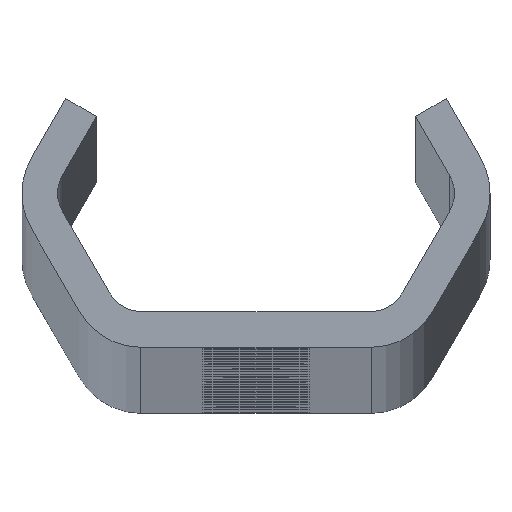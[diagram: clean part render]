
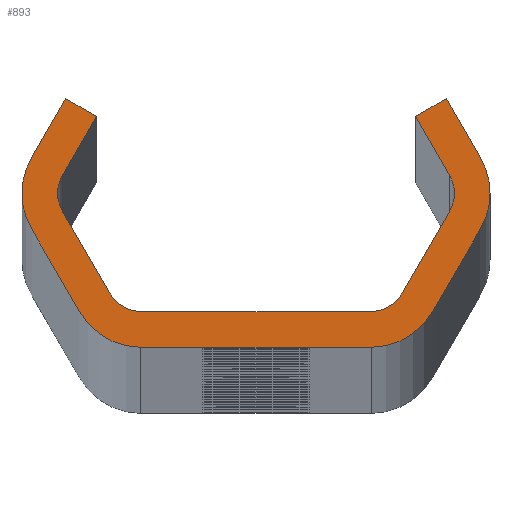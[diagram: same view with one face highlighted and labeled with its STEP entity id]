
A CAD part, top view. The second image highlights one B-rep face of the part: STEP entity #893.
In plain terms, the highlighted planar face has unit normal (0, 0, 1).
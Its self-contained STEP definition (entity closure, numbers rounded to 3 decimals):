
#893=ADVANCED_FACE('NONE',(#2499),#2500,.F.);
#2499=FACE_OUTER_BOUND('',#8165,.T.);
#2500=PLANE('',#8166);
#8165=EDGE_LOOP('',(#16565,#16566,#16567,#16568,#16569,#16570,#16571,#16572,#16573,#16574,#16575,#16576,#16577,#16578,#16579,#16580,#16581,#16582,#16583,#16584,#16585,#16586,#16587,#16588));
#8166=AXIS2_PLACEMENT_3D('',#16589,#16590,#16591);
#16565=ORIENTED_EDGE('',*,*,#22117,.T.);
#16566=ORIENTED_EDGE('',*,*,#22168,.T.);
#16567=ORIENTED_EDGE('',*,*,#21661,.T.);
#16568=ORIENTED_EDGE('',*,*,#22119,.T.);
#16569=ORIENTED_EDGE('',*,*,#22169,.T.);
#16570=ORIENTED_EDGE('',*,*,#22123,.T.);
#16571=ORIENTED_EDGE('',*,*,#22170,.T.);
#16572=ORIENTED_EDGE('',*,*,#21668,.T.);
#16573=ORIENTED_EDGE('',*,*,#22171,.T.);
#16574=ORIENTED_EDGE('',*,*,#21254,.T.);
#16575=ORIENTED_EDGE('',*,*,#21671,.T.);
#16576=ORIENTED_EDGE('',*,*,#21677,.T.);
#16577=ORIENTED_EDGE('',*,*,#21680,.T.);
#16578=ORIENTED_EDGE('',*,*,#21658,.T.);
#16579=ORIENTED_EDGE('',*,*,#22172,.T.);
#16580=ORIENTED_EDGE('',*,*,#21682,.T.);
#16581=ORIENTED_EDGE('',*,*,#22173,.T.);
#16582=ORIENTED_EDGE('',*,*,#21689,.T.);
#16583=ORIENTED_EDGE('',*,*,#22174,.T.);
#16584=ORIENTED_EDGE('',*,*,#22104,.T.);
#16585=ORIENTED_EDGE('',*,*,#22175,.T.);
#16586=ORIENTED_EDGE('',*,*,#21249,.T.);
#16587=ORIENTED_EDGE('',*,*,#22107,.T.);
#16588=ORIENTED_EDGE('',*,*,#22113,.T.);
#16589=CARTESIAN_POINT('',(0.0,0.0,3200.0));
#16590=DIRECTION('',(0.0,0.0,-1.0));
#16591=DIRECTION('',(0.0,-1.0,0.0));
#21249=EDGE_CURVE('NONE',#23676,#23680,#23682,.T.);
#21254=EDGE_CURVE('NONE',#23685,#23689,#23691,.T.);
#21658=EDGE_CURVE('NONE',#24418,#24416,#24419,.T.);
#21661=EDGE_CURVE('NONE',#24422,#24423,#24424,.T.);
#21668=EDGE_CURVE('NONE',#24436,#24434,#24437,.T.);
#21671=EDGE_CURVE('NONE',#23689,#24440,#24441,.T.);
#21677=EDGE_CURVE('NONE',#24440,#24448,#24450,.T.);
#21680=EDGE_CURVE('NONE',#24448,#24418,#24453,.T.);
#21682=EDGE_CURVE('NONE',#24455,#24456,#24457,.T.);
#21689=EDGE_CURVE('NONE',#24469,#24467,#24470,.T.);
#22104=EDGE_CURVE('NONE',#25238,#25236,#25239,.T.);
#22107=EDGE_CURVE('NONE',#23680,#25242,#25243,.T.);
#22113=EDGE_CURVE('NONE',#25242,#25250,#25252,.T.);
#22117=EDGE_CURVE('NONE',#25250,#25256,#25258,.T.);
#22119=EDGE_CURVE('NONE',#24423,#25260,#25261,.T.);
#22123=EDGE_CURVE('NONE',#25266,#25267,#25268,.T.);
#22168=EDGE_CURVE('NONE',#25256,#24422,#25315,.T.);
#22169=EDGE_CURVE('NONE',#25260,#25266,#25316,.T.);
#22170=EDGE_CURVE('NONE',#25267,#24436,#25317,.T.);
#22171=EDGE_CURVE('NONE',#24434,#23685,#25318,.T.);
#22172=EDGE_CURVE('NONE',#24416,#24455,#25319,.T.);
#22173=EDGE_CURVE('NONE',#24456,#24469,#25320,.T.);
#22174=EDGE_CURVE('NONE',#24467,#25238,#25321,.T.);
#22175=EDGE_CURVE('NONE',#25236,#23676,#25322,.T.);
#23676=VERTEX_POINT('',#27273);
#23680=VERTEX_POINT('NONE',#27278);
#23682=CIRCLE('',#27281,3.0);
#23685=VERTEX_POINT('',#27284);
#23689=VERTEX_POINT('NONE',#27289);
#23691=CIRCLE('',#27292,6.0);
#24416=VERTEX_POINT('NONE',#31597);
#24418=VERTEX_POINT('NONE',#31600);
#24419=CIRCLE('',#31601,3.0);
#24422=VERTEX_POINT('NONE',#31605);
#24423=VERTEX_POINT('NONE',#31606);
#24424=CIRCLE('',#31607,6.0);
#24434=VERTEX_POINT('NONE',#31620);
#24436=VERTEX_POINT('NONE',#31623);
#24437=LINE('',#31624,#31625);
#24440=VERTEX_POINT('NONE',#31629);
#24441=LINE('',#31630,#31631);
#24448=VERTEX_POINT('NONE',#31641);
#24450=LINE('',#31644,#31645);
#24453=LINE('',#31649,#31650);
#24455=VERTEX_POINT('NONE',#31652);
#24456=VERTEX_POINT('NONE',#31653);
#24457=LINE('',#31654,#31655);
#24467=VERTEX_POINT('NONE',#31669);
#24469=VERTEX_POINT('NONE',#31672);
#24470=LINE('',#31673,#31674);
#25236=VERTEX_POINT('NONE',#34442);
#25238=VERTEX_POINT('NONE',#34445);
#25239=LINE('',#34446,#34447);
#25242=VERTEX_POINT('NONE',#34451);
#25243=LINE('',#34452,#34453);
#25250=VERTEX_POINT('NONE',#34463);
#25252=LINE('',#34466,#34467);
#25256=VERTEX_POINT('NONE',#34472);
#25258=LINE('',#34475,#34476);
#25260=VERTEX_POINT('NONE',#34478);
#25261=LINE('',#34479,#34480);
#25266=VERTEX_POINT('NONE',#34487);
#25267=VERTEX_POINT('NONE',#34488);
#25268=LINE('',#34489,#34490);
#25315=CIRCLE('',#34540,6.0);
#25316=CIRCLE('',#34541,6.0);
#25317=CIRCLE('',#34542,6.0);
#25318=CIRCLE('',#34543,6.0);
#25319=CIRCLE('',#34544,3.0);
#25320=CIRCLE('',#34545,3.0);
#25321=CIRCLE('',#34546,3.0);
#25322=CIRCLE('',#34547,3.0);
#27273=CARTESIAN_POINT('',(-16.764,0.,3200.0));
#27278=CARTESIAN_POINT('',(-16.362,1.5,3200.0));
#27281=AXIS2_PLACEMENT_3D('',#41001,#41002,#41003);
#27284=CARTESIAN_POINT('',(19.764,0.,3200.0));
#27289=CARTESIAN_POINT('',(18.96,3.,3200.0));
#27292=AXIS2_PLACEMENT_3D('',#41009,#41010,#41011);
#31597=CARTESIAN_POINT('',(16.764,0.,3200.0));
#31600=CARTESIAN_POINT('',(16.362,1.5,3200.0));
#31601=AXIS2_PLACEMENT_3D('',#41416,#41417,#41418);
#31605=CARTESIAN_POINT('',(-19.764,0.,3200.0));
#31606=CARTESIAN_POINT('',(-18.96,-3.,3200.0));
#31607=AXIS2_PLACEMENT_3D('',#41420,#41421,#41422);
#31620=CARTESIAN_POINT('',(18.96,-3.,3200.0));
#31623=CARTESIAN_POINT('',(14.919,-10.,3200.0));
#31624=CARTESIAN_POINT('',(20.692,0.,3200.0));
#31625=VECTOR('',#41430,1000.0);
#31629=CARTESIAN_POINT('',(16.074,8.,3200.0));
#31630=CARTESIAN_POINT('',(16.074,8.,3200.0));
#31631=VECTOR('',#41432,1000.0);
#31641=CARTESIAN_POINT('',(13.475,6.5,3200.0));
#31644=CARTESIAN_POINT('',(13.475,6.5,3200.0));
#31645=VECTOR('',#41437,1000.0);
#31649=CARTESIAN_POINT('',(17.228,0.,3200.0));
#31650=VECTOR('',#41439,1000.0);
#31652=CARTESIAN_POINT('',(16.362,-1.5,3200.0));
#31653=CARTESIAN_POINT('',(12.321,-8.5,3200.0));
#31654=CARTESIAN_POINT('',(11.455,-10.0,3200.0));
#31655=VECTOR('',#41440,1000.0);
#31669=CARTESIAN_POINT('',(-9.723,-10.0,3200.0));
#31672=CARTESIAN_POINT('',(9.723,-10.0,3200.0));
#31673=CARTESIAN_POINT('',(-11.455,-10.0,3200.0));
#31674=VECTOR('',#41446,1000.0);
#34442=CARTESIAN_POINT('',(-16.362,-1.5,3200.0));
#34445=CARTESIAN_POINT('',(-12.321,-8.5,3200.0));
#34446=CARTESIAN_POINT('',(-17.228,0.,3200.0));
#34447=VECTOR('',#41900,1000.0);
#34451=CARTESIAN_POINT('',(-13.475,6.5,3200.0));
#34452=CARTESIAN_POINT('',(-13.475,6.5,3200.0));
#34453=VECTOR('',#41902,1000.0);
#34463=CARTESIAN_POINT('',(-16.074,8.,3200.0));
#34466=CARTESIAN_POINT('',(-13.475,6.5,3200.0));
#34467=VECTOR('',#41907,1000.0);
#34472=CARTESIAN_POINT('',(-18.96,3.,3200.0));
#34475=CARTESIAN_POINT('',(-16.074,8.,3200.0));
#34476=VECTOR('',#41910,1000.0);
#34478=CARTESIAN_POINT('',(-14.919,-10.,3200.0));
#34479=CARTESIAN_POINT('',(-20.692,0.,3200.0));
#34480=VECTOR('',#41911,1000.0);
#34487=CARTESIAN_POINT('',(-9.723,-13.0,3200.0));
#34488=CARTESIAN_POINT('',(9.723,-13.0,3200.0));
#34489=CARTESIAN_POINT('',(-13.187,-13.0,3200.0));
#34490=VECTOR('',#41914,1000.0);
#34540=AXIS2_PLACEMENT_3D('',#42038,#42039,#42040);
#34541=AXIS2_PLACEMENT_3D('',#42041,#42042,#42043);
#34542=AXIS2_PLACEMENT_3D('',#42044,#42045,#42046);
#34543=AXIS2_PLACEMENT_3D('',#42047,#42048,#42049);
#34544=AXIS2_PLACEMENT_3D('',#42050,#42051,#42052);
#34545=AXIS2_PLACEMENT_3D('',#42053,#42054,#42055);
#34546=AXIS2_PLACEMENT_3D('',#42056,#42057,#42058);
#34547=AXIS2_PLACEMENT_3D('',#42059,#42060,#42061);
#41001=CARTESIAN_POINT('',(-13.764,0.,3200.0));
#41002=DIRECTION('',(0.0,0.0,-1.0));
#41003=DIRECTION('',(-1.0,0.0,0.0));
#41009=CARTESIAN_POINT('',(13.764,0.,3200.0));
#41010=DIRECTION('',(0.0,0.0,1.0));
#41011=DIRECTION('',(-1.0,0.0,0.0));
#41416=CARTESIAN_POINT('',(13.764,0.,3200.0));
#41417=DIRECTION('',(0.0,0.0,-1.0));
#41418=DIRECTION('',(-1.0,0.0,0.0));
#41420=CARTESIAN_POINT('',(-13.764,0.,3200.0));
#41421=DIRECTION('',(0.0,0.0,1.0));
#41422=DIRECTION('',(-1.0,0.0,0.0));
#41430=DIRECTION('',(0.5,0.866,-0.0));
#41432=DIRECTION('',(-0.5,0.866,-0.0));
#41437=DIRECTION('',(-0.866,-0.5,-0.0));
#41439=DIRECTION('',(0.5,-0.866,-0.0));
#41440=DIRECTION('',(-0.5,-0.866,-0.0));
#41446=DIRECTION('',(-1.0,0.,-0.0));
#41900=DIRECTION('',(-0.5,0.866,-0.0));
#41902=DIRECTION('',(0.5,0.866,-0.0));
#41907=DIRECTION('',(-0.866,0.5,0.0));
#41910=DIRECTION('',(-0.5,-0.866,0.0));
#41911=DIRECTION('',(0.5,-0.866,0.0));
#41914=DIRECTION('',(1.0,0.0,0.0));
#42038=CARTESIAN_POINT('',(-13.764,0.,3200.0));
#42039=DIRECTION('',(0.0,0.0,1.0));
#42040=DIRECTION('',(-1.0,0.,0.0));
#42041=CARTESIAN_POINT('',(-9.723,-7.0,3200.0));
#42042=DIRECTION('',(0.0,0.0,1.0));
#42043=DIRECTION('',(-1.0,0.0,0.0));
#42044=CARTESIAN_POINT('',(9.723,-7.0,3200.0));
#42045=DIRECTION('',(0.0,0.0,1.0));
#42046=DIRECTION('',(-1.0,0.,0.0));
#42047=CARTESIAN_POINT('',(13.764,0.,3200.0));
#42048=DIRECTION('',(0.0,0.0,1.0));
#42049=DIRECTION('',(-1.0,0.0,0.0));
#42050=CARTESIAN_POINT('',(13.764,0.,3200.0));
#42051=DIRECTION('',(0.0,0.0,-1.0));
#42052=DIRECTION('',(-1.0,0.0,0.0));
#42053=CARTESIAN_POINT('',(9.723,-7.0,3200.0));
#42054=DIRECTION('',(0.0,0.0,-1.0));
#42055=DIRECTION('',(-1.0,0.0,0.0));
#42056=CARTESIAN_POINT('',(-9.723,-7.0,3200.0));
#42057=DIRECTION('',(0.0,0.0,-1.0));
#42058=DIRECTION('',(-1.0,0.0,0.0));
#42059=CARTESIAN_POINT('',(-13.764,0.,3200.0));
#42060=DIRECTION('',(0.0,0.0,-1.0));
#42061=DIRECTION('',(-1.0,0.0,0.0));
